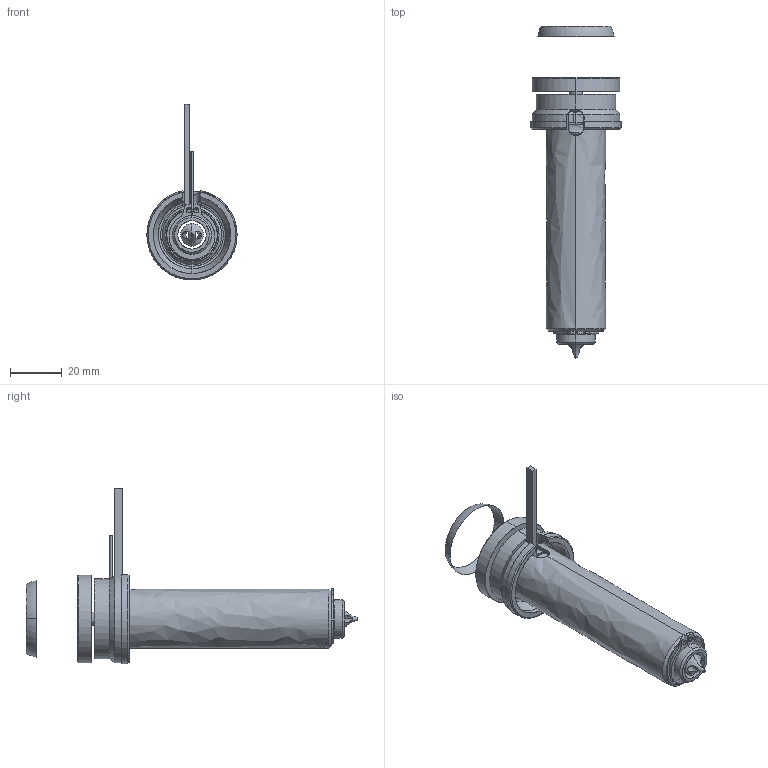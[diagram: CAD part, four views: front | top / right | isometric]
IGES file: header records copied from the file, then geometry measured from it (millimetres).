
Start section: SolidWorks IGES file using analytic representation for surfaces
Global section: file name: C:\Users\luca.EMPAD\Desktop\TEM\UGDL2602-M-A [Øf=1.0 ØC=5.0].IGS; native system: SolidWorks 2012; preprocessor: SolidWorks 2012; author: luca; date: 120330.144831; units: millimetre
Bounding box: 35 x 128.84 x 68.3 mm (x, y, z)
Surface area: 27064.5 mm2 (no closed solid volume)
Topology: 0 solids, 0 shells, 131 faces, 2138 edges, 2138 vertices
Faces by surface type: revolution 72, bspline 59
